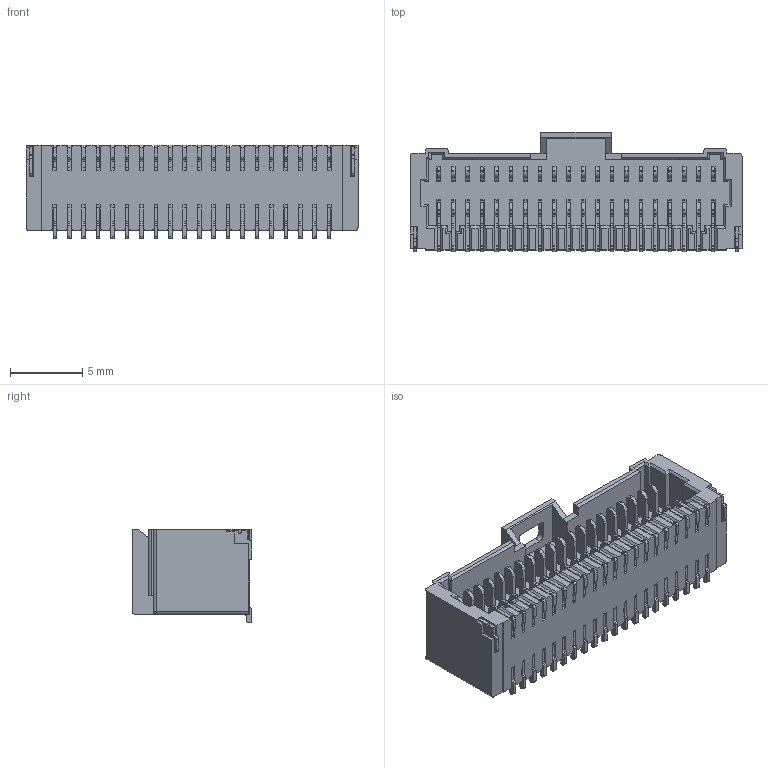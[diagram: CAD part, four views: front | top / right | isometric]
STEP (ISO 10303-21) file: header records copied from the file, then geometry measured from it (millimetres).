
FILE_DESCRIPTION(('CATIA V5 STEP Exchange'),'2;1');
FILE_NAME('\\Erp\共享文件夹\3D文件\小覃\条形连接器-小黄\1.0系列\德利\SHB(双排)\2xNPWT\HC-SHB-2x20PWT-05(1.0 双排 卧贴-HCTL).stp','2025-03-19T06:27:34+00:00',('none'),('none'),'CATIA Version 5 Release 20 GA (IN-10)','CATIA V5 STEP AP203','none');
FILE_SCHEMA(('CONFIG_CONTROL_DESIGN'));
Length unit declared in the file: millimetre
Products named in the file (1): Part2
Bounding box: 23 x 8.27 x 6.5 mm (x, y, z)
Volume: 630.8 mm3; surface area: 2074.4 mm2
Topology: 41 solids, 41 shells, 1931 faces, 5493 edges, 3622 vertices
Faces by surface type: plane 1326, cylinder 603, sphere 2
Entity records: 53292 total; most frequent: ORIENTED_EDGE 10982, CARTESIAN_POINT 9504, DIRECTION 6118, EDGE_CURVE 5491, VECTOR 4234, LINE 4234, VERTEX_POINT 3622, EDGE_LOOP 1953
